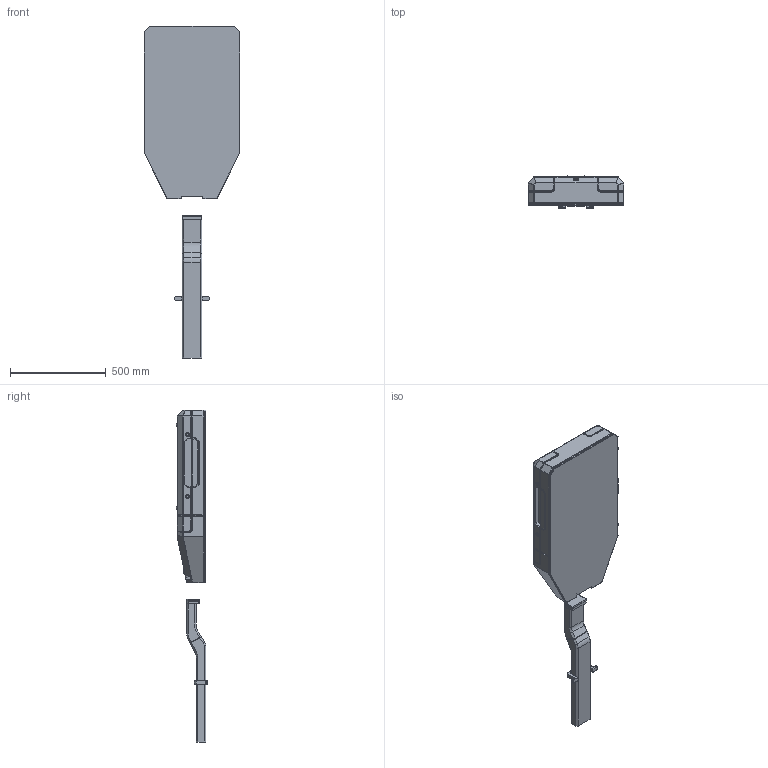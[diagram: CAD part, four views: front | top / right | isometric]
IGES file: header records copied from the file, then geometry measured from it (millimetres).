
Global section: file name: abject sifi3 v11 (2); native system: unknown; preprocessor: unknown; author: unknown; organization: unknown; date: 20220627.134733; units: centimetre
Bounding box: 500 x 165 x 1730 mm (x, y, z)
Volume: 58481629.1 mm3; surface area: 3050061.6 mm2
Topology: 8 solids, 8 shells, 1889 faces, 4442 edges, 2646 vertices
Faces by surface type: bspline 1889
